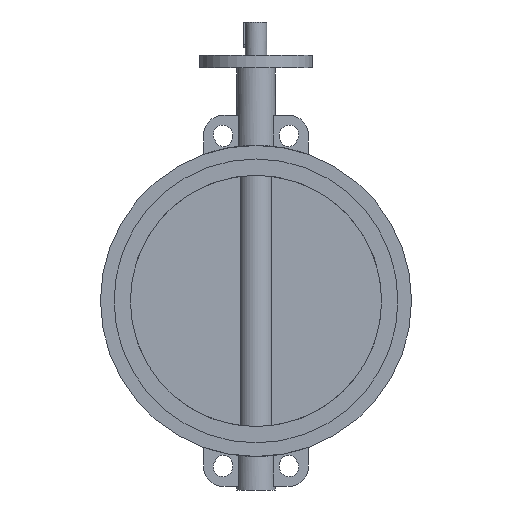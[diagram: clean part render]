
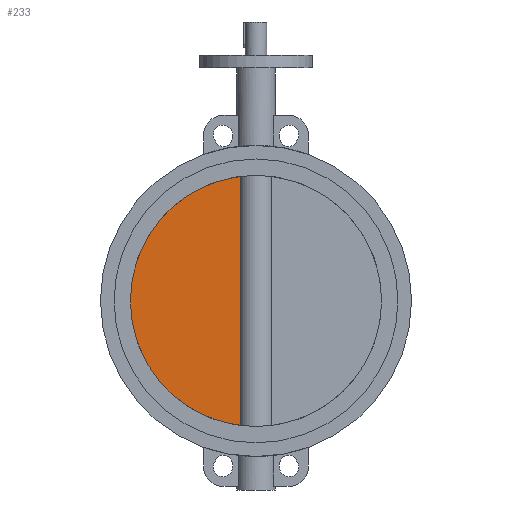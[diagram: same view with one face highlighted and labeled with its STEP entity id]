
A CAD part, left-side view. The second image highlights one B-rep face of the part: STEP entity #233.
In plain terms, the highlighted planar face has unit normal (-1, 0, 0).
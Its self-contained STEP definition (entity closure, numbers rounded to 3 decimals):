
#233=ADVANCED_FACE('',(#7152),#7154,.F.);
#7152=FACE_BOUND('',#7153,.T.);
#7153=EDGE_LOOP('',(#12619,#12620,#12621));
#7154=PLANE('',#7155);
#7155=AXIS2_PLACEMENT_3D('',#7156,#7157,#7158);
#7156=CARTESIAN_POINT('',(-12.,0.,0.));
#7157=DIRECTION('',(1.,0.,0.));
#7158=DIRECTION('',(0.,1.,0.));
#12619=ORIENTED_EDGE('',*,*,#16984,.T.);
#12620=ORIENTED_EDGE('',*,*,#16896,.T.);
#12621=ORIENTED_EDGE('',*,*,#16900,.T.);
#16896=EDGE_CURVE('',#19118,#19119,#19120,.F.);
#16900=EDGE_CURVE('',#19119,#19125,#19127,.F.);
#16984=EDGE_CURVE('',#19125,#19118,#19278,.F.);
#19118=VERTEX_POINT('',#23109);
#19119=VERTEX_POINT('',#23110);
#19120=CIRCLE('',#23111,194.8);
#19125=VERTEX_POINT('',#23151);
#19127=CIRCLE('',#23182,194.8);
#19278=LINE('',#23539,#23540);
#23109=CARTESIAN_POINT('',(-12.,24.187,193.293));
#23110=CARTESIAN_POINT('',(-12.,194.8,0.));
#23111=AXIS2_PLACEMENT_3D('',#23112,#23113,#23114);
#23112=CARTESIAN_POINT('',(-12.,0.,0.));
#23113=DIRECTION('',(1.,0.,0.));
#23114=DIRECTION('',(0.,1.,0.));
#23151=CARTESIAN_POINT('',(-12.,24.187,-193.293));
#23182=AXIS2_PLACEMENT_3D('',#23183,#23184,#23185);
#23183=CARTESIAN_POINT('',(-12.,0.,0.));
#23184=DIRECTION('',(1.,0.,0.));
#23185=DIRECTION('',(0.,0.124,-0.992));
#23539=CARTESIAN_POINT('',(-12.,24.187,193.293));
#23540=VECTOR('',#23541,1.);
#23541=DIRECTION('',(0.,0.,-1.));
